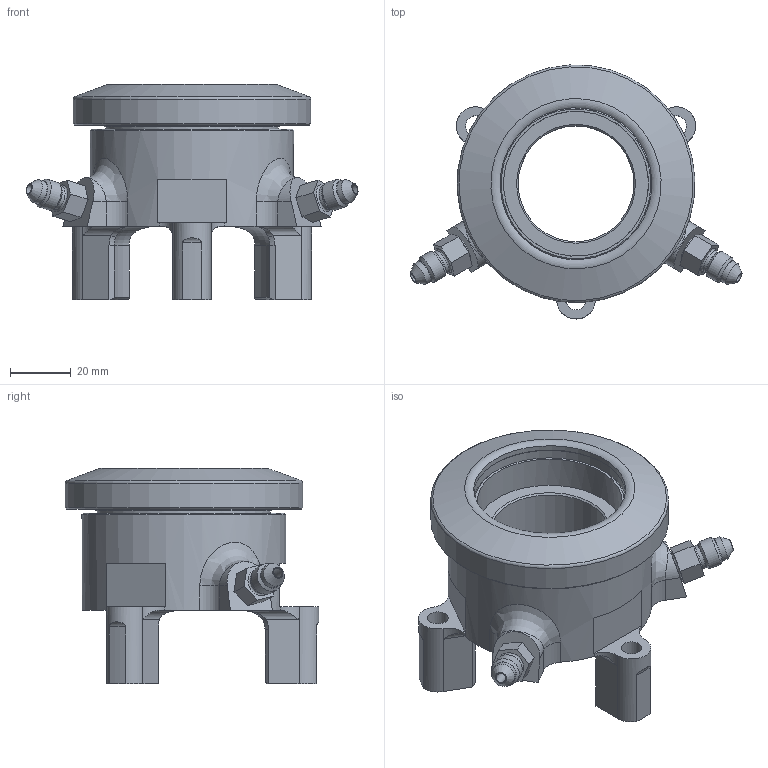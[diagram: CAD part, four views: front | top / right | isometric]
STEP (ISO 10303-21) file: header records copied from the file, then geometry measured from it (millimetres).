
FILE_DESCRIPTION(/* description */ ('Unknown'),/* implementation_level */ '2;1');
FILE_NAME(/* name */ '60-3400 ',/* time_stamp */ '2022-05-20T09:38:34-07:00',/* author */ ('Unknown'),/* organization */ ('Unknown'),/* preprocessor_version */ 'ST-DEVELOPER v16.7',/* originating_system */ 'DEX',/* authorisation */ $);
FILE_SCHEMA (('AUTOMOTIVE_DESIGN {1 0 10303 214 3 1 1}'));
Length unit declared in the file: millimetre
Products named in the file (1): 60-3400 ASSEMBLY
Bounding box: 109.26 x 83.54 x 70.88 mm (x, y, z)
Volume: 128386.2 mm3; surface area: 37038.3 mm2
Topology: 1 solids, 1 shells, 163 faces, 416 edges, 265 vertices
Faces by surface type: plane 58, cylinder 50, cone 22, torus 19, bspline 14
Full cylindrical faces by diameter (mm): 3.175 x2, 6.746 x3, 7.734 x2, 7.925 x4, 9.525 x2, 38.1 x1, 47.714 x1, 50 x1, 50.794 x1, 50.8 x1, 57.061 x1, 58.001 x1, 61.925 x1, 67.056 x1, 78.3 x1
Entity records: 6399 total; most frequent: CARTESIAN_POINT 1648, DIRECTION 729, ORIENTED_EDGE 686, EDGE_CURVE 343, AXIS2_PLACEMENT_3D 296, VERTEX_POINT 247, FACE_BOUND 236, EDGE_LOOP 234
